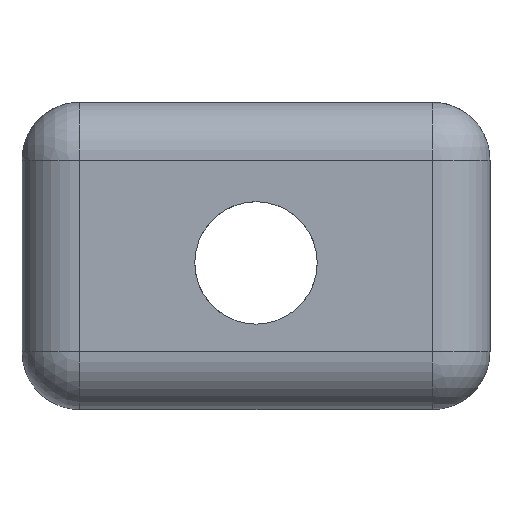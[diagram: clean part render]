
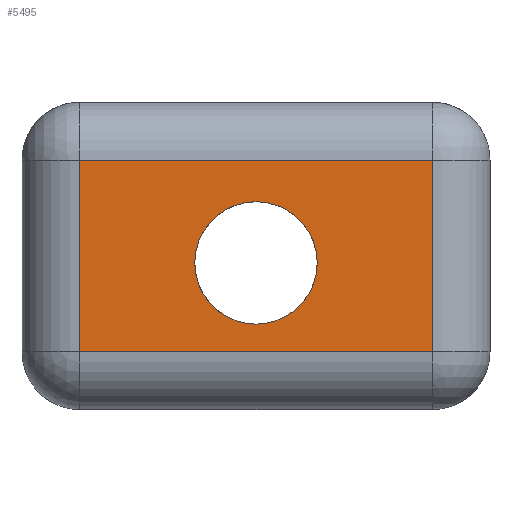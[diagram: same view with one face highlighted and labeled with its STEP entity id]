
A CAD part, left-side view. The second image highlights one B-rep face of the part: STEP entity #5495.
In plain terms, the highlighted planar face has unit normal (-1, 0, 0).
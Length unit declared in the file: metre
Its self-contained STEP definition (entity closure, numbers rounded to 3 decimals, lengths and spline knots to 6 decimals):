
#47=CIRCLE('',#5825,0.00265);
#123=PLANE('',#5824);
#604=LINE('',#8399,#1281);
#605=LINE('',#8402,#1282);
#606=LINE('',#8404,#1283);
#607=LINE('',#8406,#1284);
#1281=VECTOR('',#6464,1.);
#1282=VECTOR('',#6465,1.);
#1283=VECTOR('',#6466,1.);
#1284=VECTOR('',#6467,1.);
#2196=ORIENTED_EDGE('',*,*,#3672,.T.);
#2197=ORIENTED_EDGE('',*,*,#3673,.T.);
#2198=ORIENTED_EDGE('',*,*,#3674,.T.);
#2199=ORIENTED_EDGE('',*,*,#3675,.T.);
#2200=ORIENTED_EDGE('',*,*,#3676,.F.);
#3672=EDGE_CURVE('',#4435,#4436,#604,.F.);
#3673=EDGE_CURVE('',#4436,#4437,#605,.F.);
#3674=EDGE_CURVE('',#4437,#4438,#606,.T.);
#3675=EDGE_CURVE('',#4438,#4435,#607,.T.);
#3676=EDGE_CURVE('',#4439,#4439,#47,.T.);
#4435=VERTEX_POINT('',#8400);
#4436=VERTEX_POINT('',#8401);
#4437=VERTEX_POINT('',#8403);
#4438=VERTEX_POINT('',#8405);
#4439=VERTEX_POINT('',#8408);
#4836=EDGE_LOOP('',(#2196,#2197,#2198,#2199));
#4837=EDGE_LOOP('',(#2200));
#5146=FACE_BOUND('',#4836,.T.);
#5147=FACE_BOUND('',#4837,.T.);
#5495=ADVANCED_FACE('',(#5146,#5147),#123,.T.);
#5824=AXIS2_PLACEMENT_3D('',#8398,#6462,#6463);
#5825=AXIS2_PLACEMENT_3D('',#8407,#6468,#6469);
#6462=DIRECTION('',(-1.,0.,0.));
#6463=DIRECTION('',(0.,-1.,0.));
#6464=DIRECTION('',(0.,1.,0.));
#6465=DIRECTION('',(0.,0.,-1.));
#6466=DIRECTION('',(0.,1.,0.));
#6467=DIRECTION('',(0.,0.,-1.));
#6468=DIRECTION('',(-1.,0.,0.));
#6469=DIRECTION('',(0.,-1.,0.));
#8398=CARTESIAN_POINT('',(-0.01605,0.,0.003));
#8399=CARTESIAN_POINT('',(-0.01605,-0.010125,0.0025));
#8400=CARTESIAN_POINT('',(-0.01605,0.007625,0.0025));
#8401=CARTESIAN_POINT('',(-0.01605,-0.007625,0.0025));
#8402=CARTESIAN_POINT('',(-0.01605,-0.007625,0.003));
#8403=CARTESIAN_POINT('',(-0.01605,-0.007625,0.0108));
#8404=CARTESIAN_POINT('',(-0.01605,0.,0.0108));
#8405=CARTESIAN_POINT('',(-0.01605,0.007625,0.0108));
#8406=CARTESIAN_POINT('',(-0.01605,0.007625,0.));
#8407=CARTESIAN_POINT('',(-0.01605,0.,0.00635));
#8408=CARTESIAN_POINT('',(-0.01605,-0.00265,0.00635));
